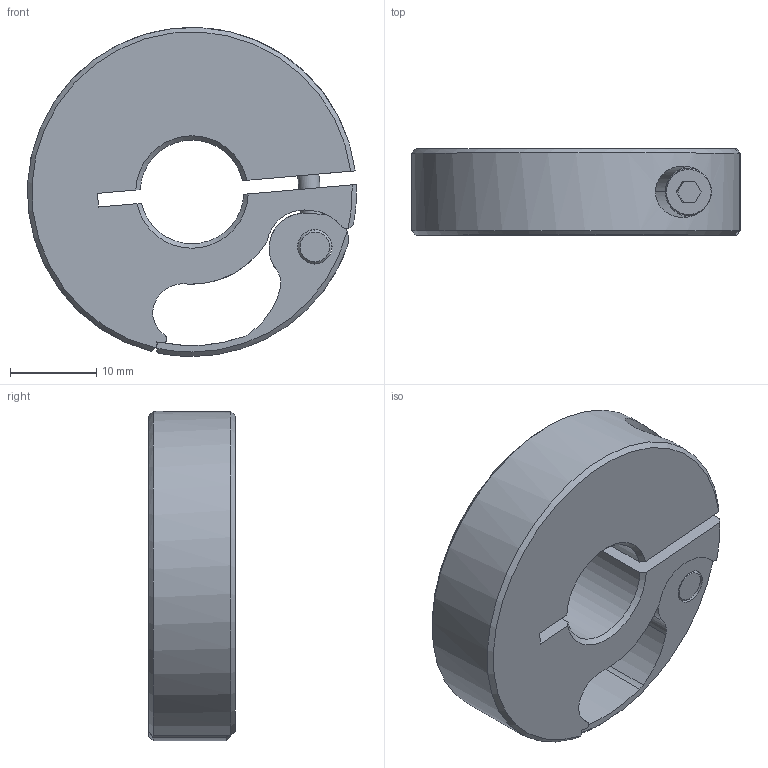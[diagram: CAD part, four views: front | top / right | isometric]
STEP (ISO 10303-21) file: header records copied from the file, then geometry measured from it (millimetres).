
FILE_DESCRIPTION((''),'2;1');
FILE_NAME('MQCL-12-A','2016-09-09T',('SYSTEM'),(''),'PRO/ENGINEER BY PARAMETRIC TECHNOLOGY CORPORATION, 2015110','PRO/ENGINEER BY PARAMETRIC TECHNOLOGY CORPORATION, 2015110','');
FILE_SCHEMA(('AUTOMOTIVE_DESIGN { 1 0 10303 214 1 1 1 1 }'));
Length unit declared in the file: inch
Products named in the file (1): MQCL-12-A
Bounding box: 38.08 x 10 x 38.1 mm (x, y, z)
Volume: 8436.8 mm3; surface area: 4790.1 mm2
Topology: 1 solids, 1 shells, 93 faces, 279 edges, 186 vertices
Faces by surface type: cylinder 46, plane 29, cone 18
Entity records: 4558 total; most frequent: CARTESIAN_POINT 883, ORIENTED_EDGE 558, DIRECTION 535, PRESENTATION_STYLE_ASSIGNMENT 309, STYLED_ITEM 280, CURVE_STYLE 279, EDGE_CURVE 279, AXIS2_PLACEMENT_3D 210
